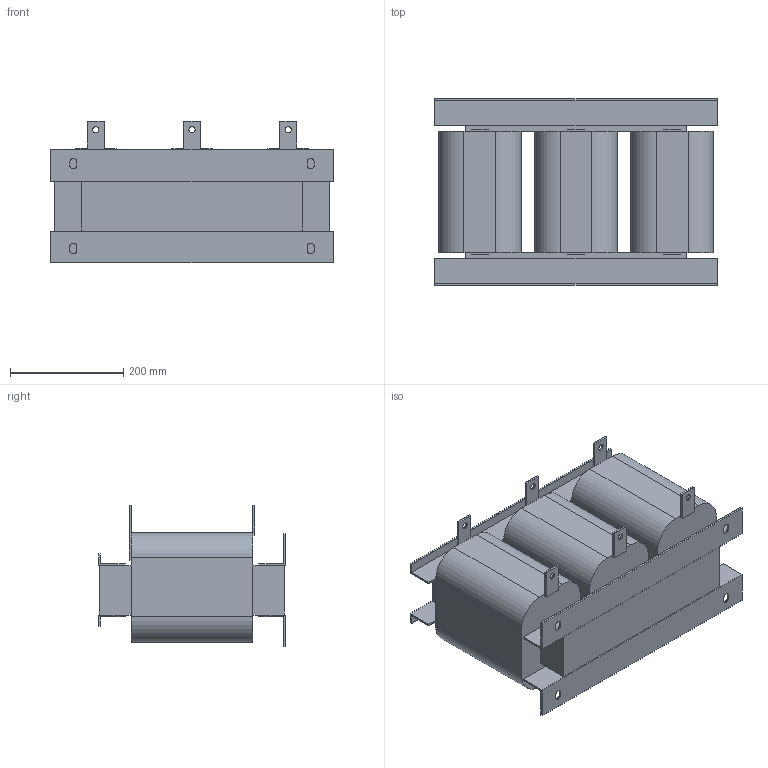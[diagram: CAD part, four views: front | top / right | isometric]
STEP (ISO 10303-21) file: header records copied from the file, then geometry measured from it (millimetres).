
FILE_DESCRIPTION(/* description */ (''),/* implementation_level */ '2;1');
FILE_NAME(/* name */ 'E:\Работа\Веда МК (Данфосс)\!Текущие задачи\2024.08.30 3D модели\Дроссели\+ACO 4-проц 660 В\STP\ACO-0235-T6-4.stp',/* time_stamp */ '2024-10-12T11:30:53+04:00',/* author */ ('Александр (огранич)'),/* organization */ (''),/* preprocessor_version */ 'ST-DEVELOPER v18.1',/* originating_system */ 'Autodesk Inventor 2021',/* authorisation */ '');
FILE_SCHEMA (('AUTOMOTIVE_DESIGN { 1 0 10303 214 3 1 1 }'));
Length unit declared in the file: millimetre
Products named in the file (1): ACO-0015-T4-4
Bounding box: 500 x 330 x 250 mm (x, y, z)
Volume: 21520049.3 mm3; surface area: 891829.7 mm2
Topology: 1 solids, 1 shells, 136 faces, 381 edges, 243 vertices
Faces by surface type: plane 110, cylinder 26
Full cylindrical faces by diameter (mm): 11 x6
Entity records: 4385 total; most frequent: ORIENTED_EDGE 762, CARTESIAN_POINT 761, DIRECTION 710, EDGE_CURVE 381, LINE 326, VECTOR 326, VERTEX_POINT 243, AXIS2_PLACEMENT_3D 192
